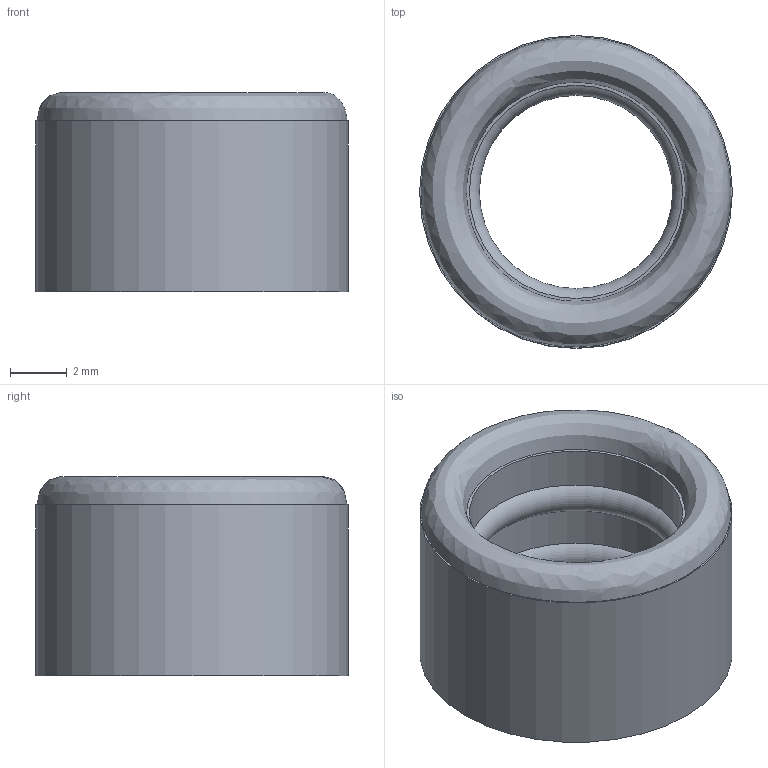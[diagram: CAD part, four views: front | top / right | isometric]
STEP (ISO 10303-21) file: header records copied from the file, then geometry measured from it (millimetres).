
FILE_DESCRIPTION(('FreeCAD Model'),'2;1');
FILE_NAME('Open CASCADE Shape Model','2026-09-29T21:45:27',('Author'),( ''),'Open CASCADE STEP processor 7.8','FreeCAD','Unknown');
FILE_SCHEMA(('AUTOMOTIVE_DESIGN { 1 0 10303 214 1 1 1 1 }'));
Length unit declared in the file: millimetre
Products named in the file (1): cable_seal_b6p8_L7p0
Bounding box: 11 x 11 x 7 mm (x, y, z)
Volume: 354.8 mm3; surface area: 496.4 mm2
Topology: 1 solids, 1 shells, 10 faces, 17 edges, 10 vertices
Faces by surface type: cylinder 4, plane 3, torus 2, bspline 1
Full cylindrical faces by diameter (mm): 7.5 x3, 11 x1
Entity records: 434 total; most frequent: CARTESIAN_POINT 231, DIRECTION 44, ORIENTED_EDGE 34, AXIS2_PLACEMENT_3D 20, EDGE_CURVE 17, FACE_BOUND 13, EDGE_LOOP 13, ADVANCED_FACE 10
